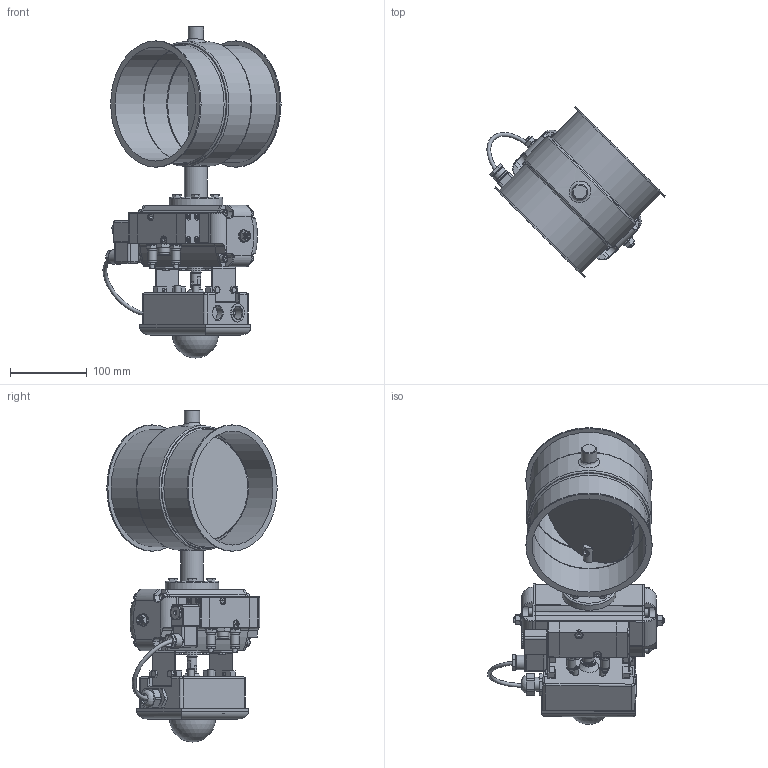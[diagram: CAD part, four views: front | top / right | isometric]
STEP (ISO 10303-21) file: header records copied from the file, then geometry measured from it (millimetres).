
FILE_DESCRIPTION((''),'2;1');
FILE_NAME('U:\Wolfgang\Marcel-3D\fertig\Kapitel 8\1521212.stp','2011-05-03T15:02:26',('TK1'),(''),'Autodesk Inventor 2010','Autodesk Inventor 2010','');
FILE_SCHEMA(('AUTOMOTIVE_DESIGN { 1 0 10303 214 1 1 1 1 }'));
Length unit declared in the file: millimetre
Products named in the file (41): 1521212; Bolzen D15; Scheibe150b; DIN 6912 M6 x 16; 1521210-1; Antrieb Flowserve; BuchseD15 70-50; Pneumatischer SchwenkantriebS63D-2; Body; roter Verschluss; A1 Schwenkantrieb; Body S063D; End Cap L; End Cap R; DIN EN ISO 4762 M6 x 12; DIN EN ISO 4018 M5x10; DIN 916 M8  x  40; DIN 555 - ersetzt durch DIN EN 24034 M8; DIN 125-1 A A 8,4; DIN 125-1 A A 13; A1 Ventileinheit-2; Ventil1; Ventil1a; Ventil1b; Ventil1a_1; Ventil1b_1; ISO 7046-1 Z M4 x 25 - 4.8 - Z; Ventil1c; Ventil1d; ISO 7047 (H) M3x8 - 4.8 - H; DIN 7984 M6 x 40; DIN EN ISO 7042 M8; Ventil1e; Ventil1f; DIN EN 24766 M6 x 30; DIN 439-2 - ersetzt durch DIN EN 24035/28675 M6; entlüftung; Halterung; Deckel2; Schlauch 1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
Assembly tree (79 placements, depth 5):
  1521212
    Bolzen D15  x2
    Scheibe150b
    DIN 6912 M6 x 16  x2
    1521210-1
    Antrieb Flowserve
      BuchseD15 70-50
      Pneumatischer SchwenkantriebS63D-2
        Body
        roter Verschluss
        A1 Schwenkantrieb
          Body S063D
          End Cap L
          End Cap R
          DIN EN ISO 4762 M6 x 12  x8
          DIN EN ISO 4018 M5x10  x4
          DIN 916 M8  x  40  x2
          DIN 555 - ersetzt durch DIN EN 24034 M8  x2
          DIN 125-1 A A 8,4  x2
          DIN 125-1 A A 13  x2
        A1 Ventileinheit-2
          Ventil1
          Ventil1a
          Ventil1b
          Ventil1a_1
          Ventil1b_1
          ISO 7046-1 Z M4 x 25 - 4.8 - Z  x8
          Ventil1c
          Ventil1d
          ISO 7047 (H) M3x8 - 4.8 - H
          DIN 7984 M6 x 40  x2
          DIN EN ISO 7042 M8  x2
          DIN 125-1 A A 8,4  x2
          Ventil1e  x2
          Ventil1f  x2
          DIN EN 24766 M6 x 30  x2
          DIN 439-2 - ersetzt durch DIN EN 24035/28675 M6  x2
          entlüftung
        Halterung  x2
        DIN EN ISO 4018 M5x10  x4
        Deckel2
        Schlauch 1
      DIN EN ISO 4018 M6x25  x4
Bounding box: 232.9 x 222.73 x 434 mm (x, y, z)
Volume: 1822847.4 mm3; surface area: 526478.3 mm2
Topology: 78 solids, 79 shells, 1695 faces, 3994 edges, 2535 vertices
Faces by surface type: plane 824, cylinder 334, cone 302, bspline 150, torus 77, sphere 8
Full cylindrical faces by diameter (mm): 2.5 x1, 3 x3, 3.242 x8, 3.571 x8, 4 x8, 4.917 x4, 5 x10, 5.5 x1, 6 x24, 6.647 x1, 8 x6, 8.4 x12, 10 x14, 11.63 x6, 11.9 x2, 12 x1, 12.5 x1, 13 x7, 14 x3, 15 x7, 15.5 x1, 15.918 x1, 16 x5, 16.918 x1, 17 x3, 17.79 x2, 18 x3, 19 x2, 20 x1, 22 x1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
Entity records: 31124 total; most frequent: CARTESIAN_POINT 8626, DIRECTION 4519, ORIENTED_EDGE 3926, EDGE_CURVE 1963, AXIS2_PLACEMENT_3D 1794, EDGE_LOOP 1398, VERTEX_POINT 1384, FACE_OUTER_BOUND 975
